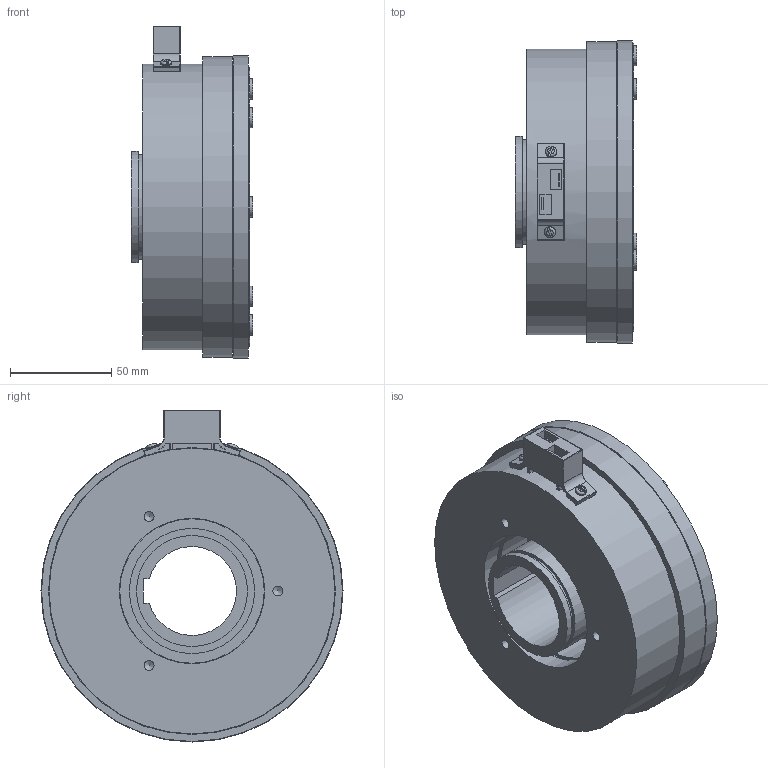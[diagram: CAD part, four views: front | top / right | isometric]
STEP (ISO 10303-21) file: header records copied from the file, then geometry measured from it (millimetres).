
FILE_DESCRIPTION(/* description */ (''),/* implementation_level */ '2;1');
FILE_NAME(/* name */ 'X:\INVENTOR\DISEGNI\08_Freni_Friz_Elettmag_Monodisco\08_26 EMSL_DF\EMSL_DF STEP\08_26_150_21 EMSL150_DF-BM_S@STEP.stp',/* time_stamp */ '2018-04-24T08:23:48+02:00',/* author */ ('stefano'),/* organization */ (''),/* preprocessor_version */ 'ST-DEVELOPER v17',/* originating_system */ 'Autodesk Inventor 2018',/* authorisation */ '');
FILE_SCHEMA (('AUTOMOTIVE_DESIGN { 1 0 10303 214 3 1 1 }'));
Length unit declared in the file: millimetre
Products named in the file (1): 08_26_150_21 EMSL150_DF-BM - Spina_Substitute_1
Bounding box: 60 x 149.5 x 164.35 mm (x, y, z)
Volume: 548442.1 mm3; surface area: 174874.9 mm2
Topology: 3 solids, 3 shells, 394 faces, 1081 edges, 706 vertices
Faces by surface type: cylinder 230, plane 100, torus 28, sphere 20, cone 16
Full cylindrical faces by diameter (mm): 2.2 x6, 4.917 x3, 5.6 x2, 6 x1, 7.5 x6, 8.1 x3, 10 x12, 52 x1, 55 x2, 62 x1, 71.5 x1, 72 x2, 74 x1, 75 x1, 95 x1, 96 x2, 126 x2, 132 x1, 141.5 x1, 142 x1, 149 x1, 149.5 x1
Entity records: 13627 total; most frequent: CARTESIAN_POINT 2582, DIRECTION 2441, ORIENTED_EDGE 2114, EDGE_CURVE 1057, AXIS2_PLACEMENT_3D 1024, VERTEX_POINT 706, CIRCLE 629, EDGE_LOOP 499
